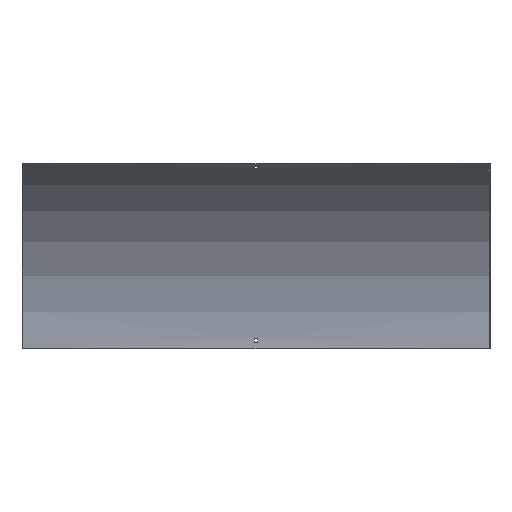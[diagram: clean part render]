
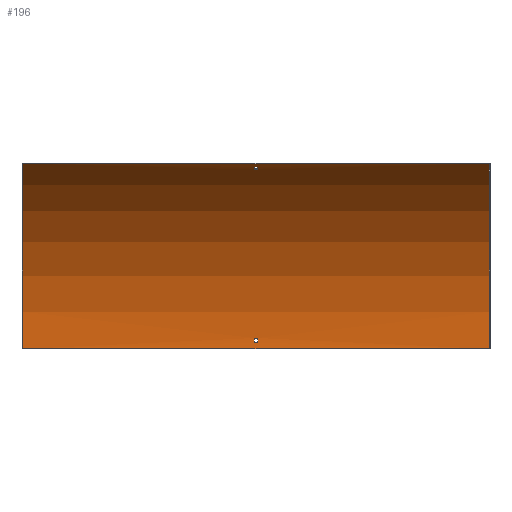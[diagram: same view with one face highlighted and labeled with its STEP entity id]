
A CAD part, front view. The second image highlights one B-rep face of the part: STEP entity #196.
In plain terms, the highlighted cylindrical face has radius 412.5 mm (diameter 825 mm), a partial arc.
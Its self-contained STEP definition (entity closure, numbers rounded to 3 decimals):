
#3 = VERTEX_POINT ( 'NONE', #560 ) ;
#19 = CARTESIAN_POINT ( 'NONE',  ( 450., -1.5, 0. ) ) ;
#28 = EDGE_CURVE ( 'NONE', #250, #219, #229, .T. ) ;
#30 = CARTESIAN_POINT ( 'NONE',  ( -450., -207.75, 357.235 ) ) ;
#33 = DIRECTION ( 'NONE',  ( -1., 0., 0. ) ) ;
#35 = ORIENTED_EDGE ( 'NONE', *, *, #343, .F. ) ;
#40 = CARTESIAN_POINT ( 'NONE',  ( 451.5, -1.675, 12. ) ) ;
#46 = DIRECTION ( 'NONE',  ( 1., 0., 0. ) ) ;
#59 = AXIS2_PLACEMENT_3D ( 'NONE', #399, #590, #170 ) ;
#63 = VERTEX_POINT ( 'NONE', #605 ) ;
#68 = AXIS2_PLACEMENT_3D ( 'NONE', #101, #94, #141 ) ;
#69 = CARTESIAN_POINT ( 'NONE',  ( 3.25, -197.445, 351.084 ) ) ;
#70 = CARTESIAN_POINT ( 'NONE',  ( 450., -207.75, 357.235 ) ) ;
#72 = AXIS2_PLACEMENT_3D ( 'NONE', #100, #46, #464 ) ;
#76 = EDGE_CURVE ( 'NONE', #406, #228, #278, .T. ) ;
#77 = LINE ( 'NONE', #305, #350 ) ;
#78 = DIRECTION ( 'NONE',  ( 0., 0., 1. ) ) ;
#85 = CYLINDRICAL_SURFACE ( 'NONE', #119, 412.5 ) ;
#92 = VECTOR ( 'NONE', #249, 1000. ) ;
#94 = DIRECTION ( 'NONE',  ( -1., 0., 0. ) ) ;
#100 = CARTESIAN_POINT ( 'NONE',  ( 3.25, -414., 0. ) ) ;
#101 = CARTESIAN_POINT ( 'NONE',  ( 3.25, -414., 0. ) ) ;
#105 = EDGE_CURVE ( 'NONE', #3, #63, #245, .T. ) ;
#112 = VECTOR ( 'NONE', #559, 1000. ) ;
#116 = CARTESIAN_POINT ( 'NONE',  ( -3.25, -197.445, 351.084 ) ) ;
#117 = LINE ( 'NONE', #302, #358 ) ;
#119 = AXIS2_PLACEMENT_3D ( 'NONE', #502, #121, #78 ) ;
#121 = DIRECTION ( 'NONE',  ( -1., 0., 0. ) ) ;
#141 = DIRECTION ( 'NONE',  ( 0., 0., 1. ) ) ;
#152 = ORIENTED_EDGE ( 'NONE', *, *, #515, .F. ) ;
#169 = EDGE_CURVE ( 'NONE', #530, #250, #117, .T. ) ;
#170 = DIRECTION ( 'NONE',  ( 0., 0., 1. ) ) ;
#188 = CARTESIAN_POINT ( 'NONE',  ( -450., -1.5, 0. ) ) ;
#189 = ORIENTED_EDGE ( 'NONE', *, *, #524, .T. ) ;
#193 = CIRCLE ( 'NONE', #480, 412.5 ) ;
#196 = ADVANCED_FACE ( 'NONE', ( #360, #554, #351 ), #85, .F. ) ;
#209 = VERTEX_POINT ( 'NONE', #30 ) ;
#210 = EDGE_CURVE ( 'NONE', #63, #408, #455, .T. ) ;
#219 = VERTEX_POINT ( 'NONE', #548 ) ;
#223 = DIRECTION ( 'NONE',  ( 0., 0., -1. ) ) ;
#224 = LINE ( 'NONE', #40, #112 ) ;
#228 = VERTEX_POINT ( 'NONE', #521 ) ;
#229 = CIRCLE ( 'NONE', #68, 412.5 ) ;
#233 = CARTESIAN_POINT ( 'NONE',  ( -3.25, -189.831, 346.272 ) ) ;
#239 = ORIENTED_EDGE ( 'NONE', *, *, #210, .F. ) ;
#245 = LINE ( 'NONE', #433, #498 ) ;
#249 = DIRECTION ( 'NONE',  ( -1., 0., 0. ) ) ;
#250 = VERTEX_POINT ( 'NONE', #69 ) ;
#261 = ORIENTED_EDGE ( 'NONE', *, *, #105, .F. ) ;
#267 = DIRECTION ( 'NONE',  ( -1., 0., 0. ) ) ;
#268 = CARTESIAN_POINT ( 'NONE',  ( 450., -414., 0. ) ) ;
#278 = CIRCLE ( 'NONE', #374, 412.5 ) ;
#282 = CIRCLE ( 'NONE', #363, 412.5 ) ;
#284 = CARTESIAN_POINT ( 'NONE',  ( -3.25, -414., 0. ) ) ;
#291 = EDGE_CURVE ( 'NONE', #497, #3, #435, .T. ) ;
#297 = LINE ( 'NONE', #70, #92 ) ;
#301 = DIRECTION ( 'NONE',  ( 1., 0., 0. ) ) ;
#302 = CARTESIAN_POINT ( 'NONE',  ( 451.5, -197.445, 351.084 ) ) ;
#305 = CARTESIAN_POINT ( 'NONE',  ( 450., -1.5, 0. ) ) ;
#311 = VERTEX_POINT ( 'NONE', #188 ) ;
#328 = LINE ( 'NONE', #523, #588 ) ;
#330 = VERTEX_POINT ( 'NONE', #233 ) ;
#337 = ORIENTED_EDGE ( 'NONE', *, *, #169, .T. ) ;
#340 = ORIENTED_EDGE ( 'NONE', *, *, #420, .T. ) ;
#343 = EDGE_CURVE ( 'NONE', #408, #497, #224, .T. ) ;
#346 = ORIENTED_EDGE ( 'NONE', *, *, #479, .F. ) ;
#350 = VECTOR ( 'NONE', #33, 1000. ) ;
#351 = FACE_BOUND ( 'NONE', #352, .T. ) ;
#352 = EDGE_LOOP ( 'NONE', ( #542, #340, #337, #361 ) ) ;
#358 = VECTOR ( 'NONE', #489, 1000. ) ;
#360 = FACE_BOUND ( 'NONE', #415, .T. ) ;
#361 = ORIENTED_EDGE ( 'NONE', *, *, #28, .T. ) ;
#363 = AXIS2_PLACEMENT_3D ( 'NONE', #284, #425, #534 ) ;
#364 = EDGE_CURVE ( 'NONE', #219, #330, #328, .T. ) ;
#374 = AXIS2_PLACEMENT_3D ( 'NONE', #268, #456, #223 ) ;
#399 = CARTESIAN_POINT ( 'NONE',  ( -3.25, -414., 0. ) ) ;
#404 = EDGE_LOOP ( 'NONE', ( #346, #152, #475, #189 ) ) ;
#406 = VERTEX_POINT ( 'NONE', #19 ) ;
#408 = VERTEX_POINT ( 'NONE', #473 ) ;
#415 = EDGE_LOOP ( 'NONE', ( #239, #261, #555, #35 ) ) ;
#420 = EDGE_CURVE ( 'NONE', #330, #530, #282, .T. ) ;
#425 = DIRECTION ( 'NONE',  ( 1., 0., 0. ) ) ;
#433 = CARTESIAN_POINT ( 'NONE',  ( 451.5, -2.035, 21. ) ) ;
#435 = CIRCLE ( 'NONE', #72, 412.5 ) ;
#441 = CARTESIAN_POINT ( 'NONE',  ( -450., -414., 0. ) ) ;
#455 = CIRCLE ( 'NONE', #59, 412.5 ) ;
#456 = DIRECTION ( 'NONE',  ( 1., 0., 0. ) ) ;
#464 = DIRECTION ( 'NONE',  ( 0., 0., -1. ) ) ;
#473 = CARTESIAN_POINT ( 'NONE',  ( -3.25, -1.675, 12. ) ) ;
#475 = ORIENTED_EDGE ( 'NONE', *, *, #76, .T. ) ;
#479 = EDGE_CURVE ( 'NONE', #311, #209, #193, .T. ) ;
#480 = AXIS2_PLACEMENT_3D ( 'NONE', #441, #301, #485 ) ;
#485 = DIRECTION ( 'NONE',  ( 0., 0., -1. ) ) ;
#489 = DIRECTION ( 'NONE',  ( 1., 0., 0. ) ) ;
#497 = VERTEX_POINT ( 'NONE', #551 ) ;
#498 = VECTOR ( 'NONE', #531, 1000. ) ;
#502 = CARTESIAN_POINT ( 'NONE',  ( 451.5, -414., 0. ) ) ;
#515 = EDGE_CURVE ( 'NONE', #406, #311, #77, .T. ) ;
#521 = CARTESIAN_POINT ( 'NONE',  ( 450., -207.75, 357.235 ) ) ;
#523 = CARTESIAN_POINT ( 'NONE',  ( 451.5, -189.831, 346.272 ) ) ;
#524 = EDGE_CURVE ( 'NONE', #228, #209, #297, .T. ) ;
#530 = VERTEX_POINT ( 'NONE', #116 ) ;
#531 = DIRECTION ( 'NONE',  ( -1., 0., 0. ) ) ;
#534 = DIRECTION ( 'NONE',  ( 0., 1., 0. ) ) ;
#542 = ORIENTED_EDGE ( 'NONE', *, *, #364, .T. ) ;
#548 = CARTESIAN_POINT ( 'NONE',  ( 3.25, -189.831, 346.272 ) ) ;
#551 = CARTESIAN_POINT ( 'NONE',  ( 3.25, -1.675, 12. ) ) ;
#554 = FACE_OUTER_BOUND ( 'NONE', #404, .T. ) ;
#555 = ORIENTED_EDGE ( 'NONE', *, *, #291, .F. ) ;
#559 = DIRECTION ( 'NONE',  ( 1., 0., 0. ) ) ;
#560 = CARTESIAN_POINT ( 'NONE',  ( 3.25, -2.035, 21. ) ) ;
#588 = VECTOR ( 'NONE', #267, 1000. ) ;
#590 = DIRECTION ( 'NONE',  ( -1., 0., 0. ) ) ;
#605 = CARTESIAN_POINT ( 'NONE',  ( -3.25, -2.035, 21. ) ) ;
